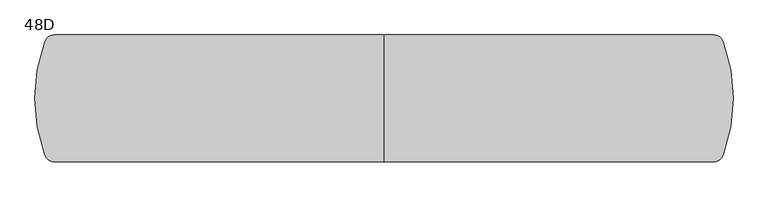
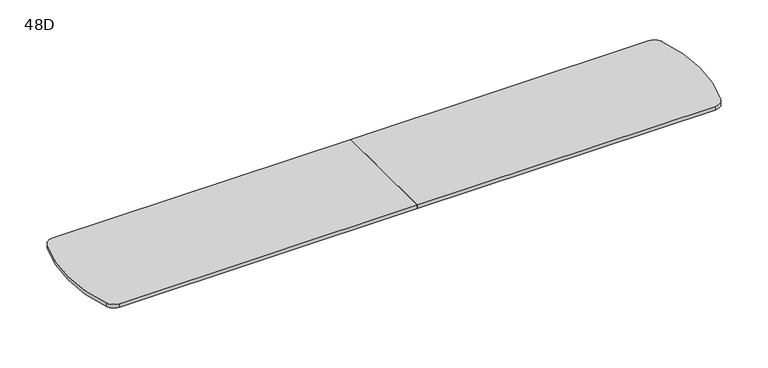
"""IFC4 building model written with IfcOpenShell, lengths in millimetres: furniture geometry, Coalesse_AM_Table_Conference_ETable2_SoftRadiused_22ft_FourBase : 48D."""

from ifc_helpers import new_model, si_unit, point, frame, frame_2d, origin, place, context, project, spatial, polyline, circle_curve, trimmed, segment, composite_curve, outline, extrude, source, transform, mapped, element, save


def furniture_48d_bba248dc(model_context):
    return source(origin(), model_context, "Body", "SweptSolid", [
        extrude(outline(composite_curve([segment(polyline([(0.0, 91.2031434), (0.0, 609.6), (3163.6557965, 609.6)]), True, "CONTINUOUS"), segment(trimmed(circle_curve(frame_2d((3163.6557965, 508.0)), 101.6), [point((3163.6557965, 609.6))], [point((3259.4453259, 541.8662966))], False, "CARTESIAN"), True, "CONTINUOUS"), segment(polyline([(3259.4453259, 541.8662966), (3260.1956256, 539.7441026)]), True, "CONTINUOUS"), segment(trimmed(circle_curve(frame_2d((1733.55, 0.0)), 1619.25), [point((3260.1956256, 539.7441026))], [point((3260.1956256, -539.7441026))], False, "CARTESIAN"), True, "CONTINUOUS"), segment(polyline([(3260.1956256, -539.7441026), (3259.4453259, -541.8662966)]), True, "CONTINUOUS"), segment(trimmed(circle_curve(frame_2d((3163.6557965, -508.0)), 101.6), [point((3259.4453259, -541.8662966))], [point((3163.6557965, -609.6))], False, "CARTESIAN"), True, "CONTINUOUS"), segment(polyline([(3163.6557965, -609.6), (0.0, -609.6), (0.0, 91.2031434)]), True, "CONTINUOUS")], self_intersect=False)), frame((0.0, 0.0, 698.5), z_axis=(0.0, 0.0, 1.0), x_axis=(1.0, 0.0, 0.0)), (0.0, 0.0, 1.0), 38.1),
        extrude(outline(composite_curve([segment(polyline([(0.0, 24.2458581), (0.0, -609.6), (-3163.6557965, -609.6)]), True, "CONTINUOUS"), segment(trimmed(circle_curve(frame_2d((-3163.6557965, -508.0)), 101.6), [point((-3163.6557965, -609.6))], [point((-3259.4453259, -541.8662966))], False, "CARTESIAN"), True, "CONTINUOUS"), segment(polyline([(-3259.4453259, -541.8662966), (-3260.1956256, -539.7441026)]), True, "CONTINUOUS"), segment(trimmed(circle_curve(frame_2d((-1733.55, 0.0)), 1619.25), [point((-3260.1956256, -539.7441026))], [point((-3260.1956256, 539.7441026))], False, "CARTESIAN"), True, "CONTINUOUS"), segment(polyline([(-3260.1956256, 539.7441026), (-3259.4453259, 541.8662966)]), True, "CONTINUOUS"), segment(trimmed(circle_curve(frame_2d((-3163.6557965, 508.0)), 101.6), [point((-3259.4453259, 541.8662966))], [point((-3163.6557965, 609.6))], False, "CARTESIAN"), True, "CONTINUOUS"), segment(polyline([(-3163.6557965, 609.6), (0.0, 609.6), (0.0, 24.2458581)]), True, "CONTINUOUS")], self_intersect=False)), frame((0.0, 0.0, 698.5), z_axis=(0.0, 0.0, 1.0), x_axis=(1.0, 0.0, 0.0)), (0.0, 0.0, 1.0), 38.1),
        extrude(outline(polyline([(96.8375, 698.5), (103.1875, 698.5), (103.1875, 476.25), (-103.1875, 476.25), (-103.1875, 698.5), (-96.8375, 698.5), (-96.8375, 482.6), (96.8375, 482.6), (96.8375, 698.5)])), frame((-2724.15, 0.0, 0.0), z_axis=(1.0, 0.0, 0.0), x_axis=(0.0, 1.0, 0.0)), (0.0, 0.0, 1.0), 5448.3),
    ])


if __name__ == "__main__":
    model = new_model("IFC4")
    model_context = context("Model", 3, world=origin())
    ifc_project = project(units=[si_unit("LENGTHUNIT", "METRE", prefix="MILLI")], contexts=[model_context])
    site = spatial("IfcSite", under=ifc_project)
    building = spatial("IfcBuilding", under=site)
    placement = place(None, origin())
    furniture_48d_shape = furniture_48d_bba248dc(model_context)
    element("IfcFurniture", 1, ObjectType="Coalesse_AM_Table_Conference_ETable2_SoftRadiused_22ft_FourBase : 48D", at=placement, inside=building, context=model_context, shape_type="MappedRepresentation", body=[
        mapped(furniture_48d_shape, transform((0.0, 0.0, 0.0), x_axis=(1.0, 0.0, 0.0), y_axis=(0.0, 1.0, 0.0), z_axis=(0.0, 0.0, 1.0))),
    ])
    save(model, "model.ifc")
